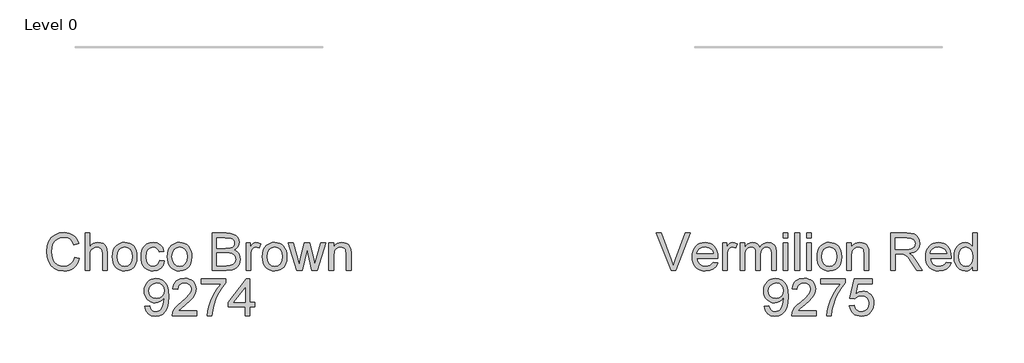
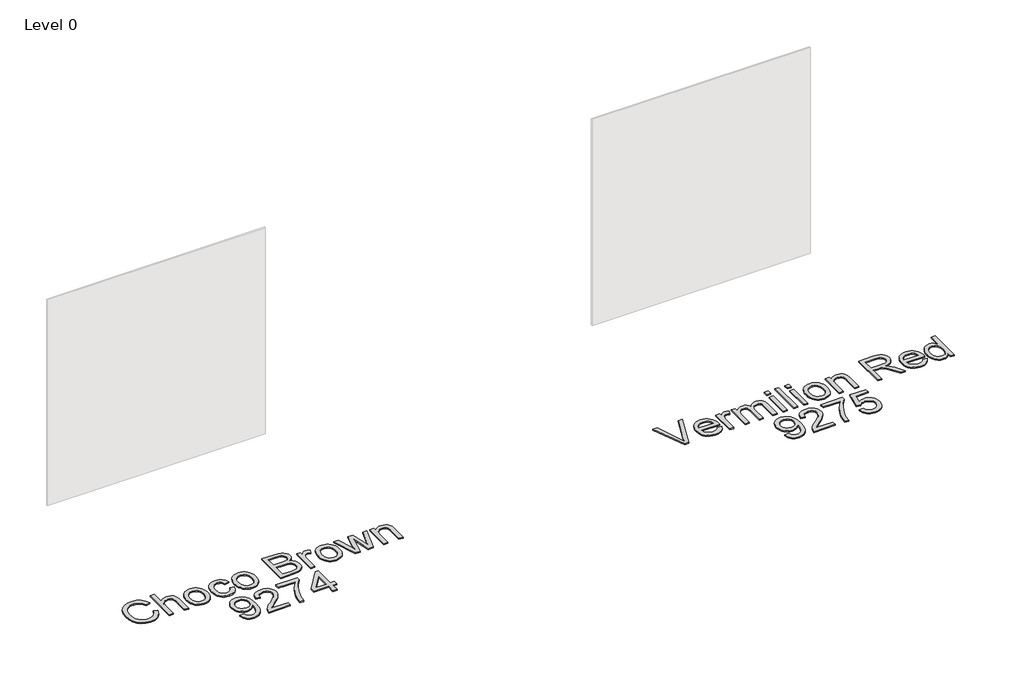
# One storey, part 5 of 6: 2 proxies.
"""IFC4 building model written with IfcOpenShell, lengths in millimetres."""

from ifc_helpers import new_model, si_unit, origin, origin_with_axes, place, context, project, spatial, polyline, outline, extrude, element, save

model = new_model("IFC4")

# Units and contexts
model_context = context("Model", 3, world=origin())
ifc_project = project(units=[si_unit("LENGTHUNIT", "METRE", prefix="MILLI")], contexts=[model_context])

# Site, building, storey
site = spatial("IfcSite", under=ifc_project)
building = spatial("IfcBuilding", under=site)
storey = spatial("IfcBuildingStorey", under=building, Name="Level 0", Elevation=0.0)

# Proxies
placement = place(None, origin())
element("IfcBuildingElementProxy", 1, Name="300mm Arial", ObjectType="300mm Arial", at=placement, inside=storey, context=model_context, shape_type="SweptSolid", body=[
    extrude(outline(polyline([(9359.9058769, -7002.860494), (9239.9763465, -6701.4915635), (9280.2962131, -6701.4915635), (9360.5680645, -6918.6155171), (9376.8284487, -6967.5438224), (9392.8681037, -6918.6155171), (9473.3606842, -6701.4915635), (9513.6805509, -6701.4915635), (9398.827792, -7002.860494), (9359.9058769, -7002.860494)])), origin_with_axes(), (0.0, 0.0, 1.0), 10.0),
    extrude(outline(polyline([(9698.9459236, -6936.9360404), (9735.881276, -6941.64493), (9722.5731448, -6969.4752029), (9701.3371566, -6990.2789297), (9672.651558, -7003.2467701), (9636.9945957, -7007.5693835), (9613.6202934, -7005.7046817), (9592.7935739, -7000.1105761), (9574.5144373, -6990.7870668), (9558.7828835, -6977.7341537), (9546.1323414, -6961.3151204), (9537.0962399, -6941.8932503), (9531.674579, -6919.4685435), (9529.8673587, -6894.0409998), (9531.6929731, -6867.7512327), (9537.1698163, -6844.5792656), (9546.2978883, -6824.5250983), (9559.0771891, -6807.5887309), (9574.7673562, -6794.133447), (9592.628027, -6784.5225298), (9612.6592017, -6778.7559796), (9634.8608801, -6776.8337961), (9656.3474879, -6778.751381), (9675.778555, -6784.5041357), (9693.1540815, -6794.0920602), (9708.4740673, -6807.5151545), (9720.9797559, -6824.4147337), (9729.9123906, -6844.4321128), (9735.2719714, -6867.5672917), (9737.0584983, -6893.8202706), (9736.8377691, -6903.9738137), (9567.538475, -6903.9738137), (9574.0591833, -6932.1719686), (9589.2067245, -6952.902119), (9611.068112, -6965.6492302), (9637.7303596, -6969.8982672), (9657.7799284, -6967.9300985), (9674.665712, -6962.0255925), (9688.3877104, -6951.8168672), (9698.9459236, -6936.9360404)]), holes=[polyline([(9567.538475, -6866.3026974), (9699.387382, -6866.3026974), (9694.2922164, -6846.4002814), (9684.3042202, -6832.1632482), (9662.3416651, -6818.9194964), (9634.7137273, -6814.5049125), (9609.3206726, -6818.0273826), (9588.3238077, -6828.5947929), (9573.7280895, -6845.0667092), (9567.538475, -6866.3026974)])]), origin_with_axes(), (0.0, 0.0, 1.0), 10.0),
    extrude(outline(polyline([(9774.7296146, -7002.860494), (9774.7296146, -6781.5426857), (9807.6918414, -6781.5426857), (9807.6918414, -6814.2841833), (9819.8687355, -6795.3014723), (9831.0891363, -6784.1178596), (9842.3463254, -6778.654812), (9854.633584, -6776.8337961), (9873.3955658, -6779.7400639), (9892.4518531, -6788.4588672), (9879.8702889, -6822.2304343), (9866.626537, -6816.4362929), (9853.3827852, -6814.5049125), (9842.1347932, -6816.3627165), (9832.0824177, -6821.9361288), (9823.9614227, -6830.8020848), (9818.5075721, -6842.5375205), (9813.9274412, -6863.5803706), (9812.400731, -6886.5362071), (9812.400731, -7002.860494), (9774.7296146, -7002.860494)])), origin_with_axes(), (0.0, 0.0, 1.0), 10.0),
    extrude(outline(polyline([(9915.9963008, -7002.860494), (9915.9963008, -6781.5426857), (9953.6674171, -6781.5426857), (9953.6674171, -6817.9630032), (9964.9981826, -6801.2335695), (9979.5663096, -6788.1277734), (9996.8751574, -6779.6572905), (10016.4280855, -6776.8337961), (10037.3789651, -6779.7124728), (10054.1727782, -6788.3485026), (10066.7175542, -6802.1716686), (10074.9213227, -6820.6117536), (10088.6525182, -6801.4588972), (10104.3150941, -6787.7782855), (10121.9090505, -6779.5699185), (10141.4343874, -6776.8337961), (10169.752104, -6781.3863358), (10190.6937866, -6795.0439549), (10203.6340358, -6818.1745354), (10207.9474522, -6851.1459592), (10207.9474522, -7002.860494), (10170.2763359, -7002.860494), (10170.2763359, -6867.332767), (10166.7814569, -6835.8788564), (10161.8702323, -6827.2060383), (10154.1263163, -6820.3910244), (10144.1659113, -6815.9764404), (10132.6052196, -6814.5049125), (10112.1969659, -6818.2757029), (10095.5595026, -6829.5880743), (10084.4954516, -6849.2145787), (10080.8074346, -6877.9277684), (10080.8074346, -7002.860494), (10043.1363183, -7002.860494), (10043.1363183, -6863.1389122), (10040.9566175, -6841.8385447), (10034.417515, -6826.6450183), (10022.9120056, -6817.5399389), (10005.833084, -6814.5049125), (9991.3201393, -6816.5282634), (9977.9476288, -6822.5983163), (9966.9111689, -6832.5679184), (9959.4063762, -6846.2899168), (9955.1021569, -6865.3278101), (9953.6674171, -6891.2450966), (9953.6674171, -7002.860494), (9915.9963008, -7002.860494)])), origin_with_axes(), (0.0, 0.0, 1.0), 10.0),
    extrude(outline(polyline([(10264.4541266, -6739.1626798), (10264.4541266, -6701.4915635), (10302.1252429, -6701.4915635), (10302.1252429, -6739.1626798), (10264.4541266, -6739.1626798)])), origin_with_axes(), (0.0, 0.0, 1.0), 10.0),
    extrude(outline(polyline([(10264.4541266, -7002.860494), (10264.4541266, -6781.5426857), (10302.1252429, -6781.5426857), (10302.1252429, -7002.860494), (10264.4541266, -7002.860494)])), origin_with_axes(), (0.0, 0.0, 1.0), 10.0),
    extrude(outline(polyline([(10358.6319174, -7002.860494), (10358.6319174, -6701.4915635), (10396.3030337, -6701.4915635), (10396.3030337, -7002.860494), (10358.6319174, -7002.860494)])), origin_with_axes(), (0.0, 0.0, 1.0), 10.0),
    extrude(outline(polyline([(10452.8097082, -7002.860494), (10452.8097082, -6781.5426857), (10490.4808245, -6781.5426857), (10490.4808245, -7002.860494), (10452.8097082, -7002.860494)])), origin_with_axes(), (0.0, 0.0, 1.0), 10.0),
    extrude(outline(polyline([(10452.8097082, -6739.1626798), (10452.8097082, -6701.4915635), (10490.4808245, -6701.4915635), (10490.4808245, -6739.1626798), (10452.8097082, -6739.1626798)])), origin_with_axes(), (0.0, 0.0, 1.0), 10.0),
    extrude(outline(polyline([(10537.5697198, -6892.2015898), (10539.6068664, -6863.5389839), (10545.718306, -6838.8403064), (10555.9040388, -6818.1055575), (10570.1640646, -6801.334737), (10584.5206595, -6790.6155754), (10600.3671764, -6782.9590314), (10617.7036154, -6778.3651049), (10636.5299765, -6776.8337961), (10657.31301, -6778.698498), (10676.1048822, -6784.2926036), (10692.905593, -6793.6161129), (10707.7151426, -6806.669026), (10719.8023654, -6823.0098843), (10728.436096, -6842.1972296), (10733.6163343, -6864.2310619), (10735.3430805, -6889.1113811), (10732.2896599, -6927.1687735), (10723.1293982, -6956.1394806), (10708.1290099, -6977.8353213), (10687.5552093, -6994.0681143), (10663.1186478, -7004.1940662), (10636.5299765, -7007.5693835), (10615.4434404, -7005.7115794), (10596.4768243, -7000.1381672), (10579.6301282, -6990.8491468), (10564.9033521, -6977.8445183), (10552.944888, -6961.3450108), (10544.4031279, -6941.5713536), (10539.2780719, -6918.5235466), (10537.5697198, -6892.2015898)]), holes=[polyline([(10575.2408362, -6892.1280134), (10579.6002378, -6926.2214773), (10592.6784427, -6950.5108861), (10612.3601295, -6965.0514219), (10636.5299765, -6969.8982672), (10660.589459, -6965.0238308), (10680.2343576, -6950.4005215), (10693.3125625, -6925.789216), (10697.6719641, -6890.950791), (10693.2849714, -6857.8506085), (10680.123993, -6833.8922936), (10660.4515033, -6819.3517577), (10636.5299765, -6814.5049125), (10612.3601295, -6819.3333636), (10592.6784427, -6833.8187172), (10579.6002378, -6858.0529436), (10575.2408362, -6892.1280134)])]), origin_with_axes(), (0.0, 0.0, 1.0), 10.0),
    extrude(outline(polyline([(10777.7230863, -7002.860494), (10777.7230863, -6781.5426857), (10815.3942026, -6781.5426857), (10815.3942026, -6812.4447733), (10828.4816046, -6796.8649708), (10844.1993628, -6785.7365404), (10862.5474773, -6779.0594822), (10883.5259481, -6776.8337961), (10902.0947918, -6778.6272209), (10919.100137, -6784.0074951), (10933.281988, -6792.303234), (10943.3803487, -6802.8430532), (10954.674326, -6830.5445674), (10956.6608888, -6866.964885), (10956.6608888, -7002.860494), (10918.9897724, -7002.860494), (10918.9897724, -6872.0416565), (10914.6487649, -6838.7115477), (10908.6430913, -6828.7879309), (10899.3080857, -6821.0900002), (10887.3427238, -6816.1511844), (10873.4459814, -6814.5049125), (10851.3822588, -6818.2021265), (10832.5742918, -6829.2937687), (10825.0580028, -6838.3482643), (10819.6892249, -6850.7228949), (10815.3942026, -6885.4325611), (10815.3942026, -7002.860494), (10777.7230863, -7002.860494)])), origin_with_axes(), (0.0, 0.0, 1.0), 10.0),
    extrude(outline(polyline([(11130.8898017, -7002.860494), (11130.8898017, -6701.4915635), (11260.752146, -6701.4915635), (11295.6549503, -6703.5241116), (11321.048005, -6709.6217556), (11339.6076516, -6720.8789447), (11354.0102317, -6738.3901276), (11363.2532669, -6760.1043624), (11366.3342786, -6783.9707069), (11361.2299159, -6813.6587839), (11345.9168278, -6838.2700893), (11334.3170487, -6848.2994722), (11319.9351619, -6856.3147012), (11282.8250657, -6866.3026974), (11304.2357978, -6882.4159288), (11334.7700034, -6921.1906911), (11385.0226839, -7002.860494), (11341.2447265, -7002.860494), (11302.0285058, -6940.3941312), (11273.7015922, -6899.0441949), (11253.7991763, -6879.509661), (11235.8833231, -6872.3359621), (11214.0311326, -6871.0115869), (11168.560918, -6871.0115869), (11168.560918, -7002.860494), (11130.8898017, -7002.860494)]), holes=[polyline([(11168.560918, -6833.3404706), (11252.8794713, -6833.3404706), (11277.0953036, -6832.0068984), (11295.8848765, -6828.0061817), (11310.0299392, -6821.0716061), (11320.312241, -6810.9364571), (11326.575432, -6798.6767896), (11328.6631623, -6785.3686584), (11324.6808397, -6766.9929528), (11312.7338719, -6752.1857025), (11292.1784654, -6742.4184355), (11262.3708267, -6739.1626798), (11168.560918, -6739.1626798), (11168.560918, -6833.3404706)])]), origin_with_axes(), (0.0, 0.0, 1.0), 10.0),
    extrude(outline(polyline([(11582.5017389, -6936.9360404), (11619.4370913, -6941.64493), (11606.1289601, -6969.4752029), (11584.8929719, -6990.2789297), (11556.2073733, -7003.2467701), (11520.550411, -7007.5693835), (11497.1761087, -7005.7046817), (11476.3493892, -7000.1105761), (11458.0702526, -6990.7870668), (11442.3386988, -6977.7341537), (11429.6881567, -6961.3151204), (11420.6520552, -6941.8932503), (11415.2303943, -6919.4685435), (11413.423174, -6894.0409998), (11415.2487884, -6867.7512327), (11420.7256316, -6844.5792656), (11429.8537036, -6824.5250983), (11442.6330044, -6807.5887309), (11458.3231715, -6794.133447), (11476.1838423, -6784.5225298), (11496.215017, -6778.7559796), (11518.4166954, -6776.8337961), (11539.9033032, -6778.751381), (11559.3343703, -6784.5041357), (11576.7098968, -6794.0920602), (11592.0298826, -6807.5151545), (11604.5355712, -6824.4147337), (11613.4682059, -6844.4321128), (11618.8277867, -6867.5672917), (11620.6143136, -6893.8202706), (11620.3935845, -6903.9738137), (11451.0942903, -6903.9738137), (11457.6149986, -6932.1719686), (11472.7625398, -6952.902119), (11494.6239273, -6965.6492302), (11521.2861749, -6969.8982672), (11541.3357437, -6967.9300985), (11558.2215273, -6962.0255925), (11571.9435257, -6951.8168672), (11582.5017389, -6936.9360404)]), holes=[polyline([(11451.0942903, -6866.3026974), (11582.9431973, -6866.3026974), (11577.8480317, -6846.4002814), (11567.8600355, -6832.1632482), (11545.8974804, -6818.9194964), (11518.2695426, -6814.5049125), (11492.8764879, -6818.0273826), (11471.879623, -6828.5947929), (11457.2839048, -6845.0667092), (11451.0942903, -6866.3026974)])]), origin_with_axes(), (0.0, 0.0, 1.0), 10.0),
    extrude(outline(polyline([(11794.8432266, -7002.860494), (11794.8432266, -6967.3230932), (11783.5722419, -6984.9308452), (11769.9192214, -6997.507811), (11753.8841649, -7005.0539904), (11735.4670725, -7007.5693835), (11711.1132845, -7003.9273518), (11688.8196356, -6993.0012565), (11669.9472892, -6975.5544529), (11655.8574088, -6952.350296), (11647.0834232, -6924.3268851), (11644.1587613, -6892.422319), (11646.853497, -6860.9132261), (11654.9377038, -6832.4575538), (11668.4021848, -6808.6739828), (11687.237743, -6791.181194), (11710.0188355, -6780.4206456), (11735.3199197, -6776.8337961), (11753.7508077, -6779.3997731), (11770.0479801, -6787.0977038), (11783.861949, -6798.8975188), (11794.8432266, -6813.7691485), (11794.8432266, -6701.4915635), (11832.5143429, -6701.4915635), (11832.5143429, -7002.860494), (11794.8432266, -7002.860494)]), holes=[polyline([(11681.8298776, -6892.2751662), (11686.0789147, -6926.350236), (11698.8260258, -6950.5844625), (11717.3488843, -6965.069816), (11738.9251633, -6969.8982672), (11760.4922453, -6965.2905452), (11778.5460542, -6951.4673793), (11790.7689335, -6928.1712519), (11794.8432266, -6895.1446458), (11790.6953571, -6859.037028), (11778.2517486, -6834.0026582), (11759.7380872, -6819.3793489), (11737.3800589, -6814.5049125), (11715.5830507, -6819.1862108), (11697.7223798, -6833.230106), (11685.8030032, -6857.3539678), (11681.8298776, -6892.2751662)])]), origin_with_axes(), (0.0, 0.0, 1.0), 10.0),
    extrude(outline(polyline([(10111.4152166, -7293.4427149), (10149.0863329, -7288.7338254), (10155.5242679, -7310.1169663), (10166.0089047, -7324.6758963), (10180.2827261, -7333.0360146), (10198.0882147, -7335.8227207), (10214.0634903, -7334.029296), (10228.5856321, -7328.6490218), (10240.6521615, -7320.2705094), (10249.2606002, -7309.4823699), (10261.5846471, -7276.7408723), (10267.0293006, -7233.0364913), (10266.8085714, -7225.6788514), (10253.7579576, -7241.6081418), (10236.679036, -7254.2264942), (10216.8042112, -7262.4486568), (10195.3658879, -7265.1893777), (10177.4707281, -7263.5155146), (10161.0149066, -7258.4939254), (10145.9984234, -7250.12461), (10132.4212786, -7238.4075684), (10121.1709873, -7223.9544045), (10113.135065, -7207.3767221), (10108.3135116, -7188.6745212), (10106.7063271, -7167.8478018), (10108.3916865, -7146.326705), (10113.4477647, -7127.0129003), (10121.8745616, -7109.9063875), (10133.6720773, -7095.0071667), (10148.0079788, -7082.9360387), (10164.0499331, -7074.3138045), (10181.7979401, -7069.1404639), (10201.2519999, -7067.4160171), (10229.3489872, -7071.3523544), (10254.925983, -7083.1613665), (10276.318321, -7102.254442), (10291.8613353, -7128.0429699), (10301.3250996, -7163.6907352), (10304.4796877, -7212.3615232), (10301.3342966, -7263.96617), (10291.8981235, -7303.8537754), (10276.2539416, -7333.8269609), (10254.4845246, -7355.6883485), (10227.5279714, -7369.0424649), (10196.3223811, -7373.4938371), (10164.1143124, -7368.2423216), (10138.4177551, -7352.4877751), (10120.4467196, -7327.2234791), (10111.4152166, -7293.4427149)]), holes=[polyline([(10266.8085714, -7166.964885), (10262.7434754, -7141.4338745), (10250.5481872, -7121.788976), (10231.6206586, -7109.262594), (10207.358841, -7105.0871334), (10182.1957125, -7109.5844908), (10162.0357792, -7123.0765629), (10148.7920273, -7143.7239399), (10144.3774434, -7169.6872117), (10148.552904, -7192.964945), (10161.079286, -7211.4418182), (10180.7425786, -7223.4991506), (10206.3287714, -7227.5182614), (10230.3974509, -7223.4991506), (10249.775635, -7211.4418182), (10262.5503373, -7192.2843633), (10266.8085714, -7166.964885)])]), origin_with_axes(), (0.0, 0.0, 1.0), 10.0),
    extrude(outline(polyline([(10530.5063855, -7331.1138312), (10530.5063855, -7368.7849475), (10332.7330249, -7368.7849475), (10336.7797269, -7342.8124787), (10346.0687473, -7322.5145896), (10359.661987, -7302.8237058), (10379.3252796, -7282.213117), (10406.8244588, -7259.156113), (10447.4754192, -7223.0484951), (10471.8659955, -7196.3954446), (10484.0612836, -7174.7639833), (10488.1263797, -7153.7211331), (10484.2912099, -7134.8579838), (10472.7857005, -7119.1770138), (10455.0997736, -7108.6096035), (10432.7233512, -7105.0871334), (10409.2248888, -7108.52683), (10390.9687448, -7118.84592), (10379.1873239, -7135.2350629), (10375.1130308, -7156.8849183), (10337.4419145, -7152.1760288), (10346.574585, -7115.7373171), (10355.1209436, -7101.2013798), (10366.3206511, -7089.1210548), (10379.9161901, -7079.6251008), (10395.6500432, -7072.8422765), (10433.5326916, -7067.4160171), (10453.7225154, -7068.9243332), (10471.6912516, -7073.4492818), (10487.4389002, -7080.9908627), (10500.9654613, -7091.549076), (10511.8294765, -7104.3421723), (10519.5894873, -7118.5884026), (10524.2454938, -7134.2877667), (10525.797496, -7151.4402648), (10524.1236329, -7169.4572855), (10519.1020437, -7187.1616065), (10510.1901024, -7205.1694302), (10496.845183, -7224.0969588), (10475.5724066, -7246.6941104), (10442.8768943, -7275.7108027), (10399.5403953, -7311.9471793), (10382.5442471, -7331.1138312), (10530.5063855, -7331.1138312)])), origin_with_axes(), (0.0, 0.0, 1.0), 10.0),
    extrude(outline(polyline([(10568.1775018, -7109.7960229), (10568.1775018, -7072.1249066), (10765.9508625, -7072.1249066), (10765.9508625, -7102.5855358), (10737.7619046, -7138.2608923), (10709.8488582, -7183.6299393), (10685.2283557, -7234.5540045), (10666.9170294, -7286.8944154), (10657.9407087, -7326.0554538), (10652.9375135, -7368.7849475), (10615.2663972, -7368.7849475), (10619.3406903, -7329.9550029), (10630.2391944, -7283.8042066), (10647.667604, -7234.8850983), (10671.3316133, -7187.7502177), (10698.9595511, -7145.1402856), (10728.2797461, -7109.7960229), (10568.1775018, -7109.7960229)])), origin_with_axes(), (0.0, 0.0, 1.0), 10.0),
    extrude(outline(polyline([(10798.9130892, -7288.7338254), (10836.5842055, -7284.0249358), (10843.500387, -7306.6404815), (10855.5669165, -7322.8364863), (10872.7286116, -7332.5761621), (10894.93029, -7335.8227207), (10921.9328284, -7331.3069693), (10942.1663381, -7317.7597148), (10954.8030847, -7296.7444558), (10959.0153335, -7269.8246908), (10955.0697991, -7244.4776213), (10943.2331959, -7225.0902402), (10923.4135534, -7212.7845875), (10895.5189012, -7208.6827032), (10877.244363, -7210.3197781), (10862.4463098, -7215.2310027), (10841.2930951, -7232.2271509), (10803.6219788, -7227.5182614), (10836.5842055, -7072.1249066), (10982.5597812, -7072.1249066), (10982.5597812, -7109.7960229), (10867.0448347, -7109.7960229), (10850.9316033, -7192.790201), (10877.8421713, -7176.4562404), (10906.0403262, -7171.0115869), (10924.3861415, -7172.6992456), (10941.2374361, -7177.7622215), (10956.5942101, -7186.2005148), (10970.4564636, -7198.0141254), (10981.9320826, -7212.4810848), (10990.1289533, -7228.8794248), (10995.0470757, -7247.2091452), (10996.6864498, -7267.470246), (10990.7819438, -7305.1413624), (10983.4013113, -7321.9351754), (10973.0684257, -7337.3678251), (10957.4150468, -7353.1729553), (10939.1497058, -7364.4623341), (10918.2724026, -7371.2359613), (10894.7831372, -7373.4938371), (10857.7834055, -7367.6904986), (10842.1047347, -7360.4363255), (10828.3068606, -7350.2804832), (10816.8266431, -7337.7288093), (10808.1009421, -7323.2871418), (10798.9130892, -7288.7338254)])), origin_with_axes(), (0.0, 0.0, 1.0), 10.0),
])
element("IfcBuildingElementProxy", 2, Name="300mm Arial", ObjectType="300mm Arial", at=placement, inside=storey, context=model_context, shape_type="SweptSolid", body=[
    extrude(outline(polyline([(4543.9940273, -6895.733257), (4581.6651436, -6905.4453417), (4574.2109347, -6928.872527), (4564.2827193, -6949.3428607), (4551.8804975, -6966.856343), (4537.0042694, -6981.4129737), (4519.9897271, -6992.856403), (4501.172563, -7001.0302811), (4480.5527772, -7005.9346079), (4458.1303696, -7007.5693835), (4414.4351856, -7002.6213707), (4379.7347164, -6987.7773322), (4353.1368482, -6963.5523028), (4333.749467, -6930.4613173), (4321.9128638, -6891.5577963), (4317.9673294, -6849.8951604), (4322.4278986, -6805.9516561), (4335.8096062, -6768.0046283), (4357.4134764, -6737.2588905), (4386.5405333, -6714.9192564), (4421.0846527, -6701.3168196), (4458.93971, -6696.782674), (4500.243661, -6702.6503918), (4518.2123972, -6709.9850391), (4534.3923072, -6720.2535453), (4548.5166766, -6733.1845974), (4560.3187908, -6748.5068825), (4576.956254, -6786.3251516), (4539.2851377, -6795.3014723), (4526.2253269, -6767.8298843), (4508.3830501, -6748.9851291), (4485.5375782, -6738.086625), (4457.468182, -6734.4537903), (4425.1129605, -6738.4820981), (4398.5334864, -6750.5670217), (4378.364356, -6769.439368), (4365.2401658, -6793.8299443), (4358.0388758, -6821.4026999), (4355.6384457, -6849.821584), (4358.4803342, -6884.6232207), (4367.0059994, -6914.7159679), (4381.5373382, -6938.9501944), (4402.3962473, -6956.1762688), (4427.403026, -6966.4677676), (4454.3779732, -6969.8982672), (4485.8226868, -6965.2261659), (4512.0250819, -6951.2098619), (4531.8079362, -6927.996508), (4543.9940273, -6895.733257)])), origin_with_axes(), (0.0, 0.0, 1.0), 10.0),
    extrude(outline(polyline([(4628.754039, -7002.860494), (4628.754039, -6701.4915635), (4666.4251553, -6701.4915635), (4666.4251553, -6812.2976205), (4680.2621168, -6796.7821973), (4695.8005326, -6785.6997522), (4713.0404026, -6779.0502852), (4731.9817268, -6776.8337961), (4754.7352282, -6779.2526203), (4774.2881563, -6786.5090926), (4789.6840178, -6798.0329961), (4799.9663195, -6813.2541137), (4805.7604609, -6834.1682051), (4807.6918414, -6862.7710302), (4807.6918414, -7002.860494), (4770.0207251, -7002.860494), (4770.0207251, -6866.6705794), (4767.0224868, -6843.0893435), (4758.0277721, -6826.9393239), (4743.5332215, -6817.6135153), (4724.0354757, -6814.5049125), (4708.1153824, -6816.6018398), (4693.1701763, -6822.8926219), (4680.7909472, -6832.7702535), (4672.5687846, -6845.6277292), (4667.9610626, -6862.7158479), (4666.4251553, -6885.2854083), (4666.4251553, -7002.860494), (4628.754039, -7002.860494)])), origin_with_axes(), (0.0, 0.0, 1.0), 10.0),
    extrude(outline(polyline([(4850.0718473, -6892.2015898), (4852.1089938, -6863.5389839), (4858.2204335, -6838.8403064), (4868.4061662, -6818.1055575), (4882.666192, -6801.334737), (4897.0227869, -6790.6155754), (4912.8693038, -6782.9590314), (4930.2057429, -6778.3651049), (4949.032104, -6776.8337961), (4969.8151374, -6778.698498), (4988.6070096, -6784.2926036), (5005.4077205, -6793.6161129), (5020.21727, -6806.669026), (5032.3044928, -6823.0098843), (5040.9382234, -6842.1972296), (5046.1184618, -6864.2310619), (5047.8452079, -6889.1113811), (5044.7917873, -6927.1687735), (5035.6315256, -6956.1394806), (5020.6311373, -6977.8353213), (5000.0573367, -6994.0681143), (4975.6207752, -7004.1940662), (4949.032104, -7007.5693835), (4927.9455679, -7005.7115794), (4908.9789517, -7000.1381672), (4892.1322556, -6990.8491468), (4877.4054795, -6977.8445183), (4865.4470154, -6961.3450108), (4856.9052553, -6941.5713536), (4851.7801993, -6918.5235466), (4850.0718473, -6892.2015898)]), holes=[polyline([(4887.7429636, -6892.1280134), (4892.1023652, -6926.2214773), (4905.1805701, -6950.5108861), (4924.8622569, -6965.0514219), (4949.032104, -6969.8982672), (4973.0915864, -6965.0238308), (4992.736485, -6950.4005215), (5005.8146899, -6925.789216), (5010.1740916, -6890.950791), (5005.7870988, -6857.8506085), (4992.6261204, -6833.8922936), (4972.9536307, -6819.3517577), (4949.032104, -6814.5049125), (4924.8622569, -6819.3333636), (4905.1805701, -6833.8187172), (4892.1023652, -6858.0529436), (4887.7429636, -6892.1280134)])]), origin_with_axes(), (0.0, 0.0, 1.0), 10.0),
    extrude(outline(polyline([(5231.4918999, -6922.8093718), (5269.1630162, -6927.5182614), (5258.6599852, -6961.0231141), (5238.9231162, -6986.3425924), (5211.8102131, -7002.2626857), (5179.1790801, -7007.5693835), (5158.0511573, -7005.7184772), (5139.1075338, -7000.1657584), (5122.3482097, -6990.9112269), (5107.7731849, -6977.9548829), (5095.9756691, -6961.5404481), (5087.5488722, -6941.9116444), (5082.492794, -6919.0684718), (5080.8074346, -6893.0109302), (5083.6861112, -6859.4876834), (5092.3221411, -6830.4342028), (5106.8534799, -6806.9725286), (5127.4180834, -6790.2247008), (5152.0201919, -6780.1815223), (5178.6640454, -6776.8337961), (5210.495035, -6781.4323211), (5235.943272, -6795.2278959), (5254.199416, -6817.4847566), (5264.4541266, -6847.4671392), (5226.7830103, -6852.1760288), (5219.9496023, -6835.7409006), (5209.3086156, -6823.9594797), (5195.4486614, -6816.8685543), (5178.9583509, -6814.5049125), (5154.6137599, -6819.1586197), (5135.2907581, -6833.1197414), (5122.6816027, -6857.1424357), (5118.4785509, -6891.9808606), (5122.5896322, -6927.2883351), (5134.9228761, -6951.3938029), (5153.89639, -6965.2721511), (5177.9282814, -6969.8982672), (5197.4352242, -6967.0103936), (5213.4288939, -6958.3467726), (5225.063162, -6943.6866751), (5231.4918999, -6922.8093718)])), origin_with_axes(), (0.0, 0.0, 1.0), 10.0),
    extrude(outline(polyline([(5292.7074639, -6892.2015898), (5294.7446104, -6863.5389839), (5300.8560501, -6838.8403064), (5311.0417828, -6818.1055575), (5325.3018086, -6801.334737), (5339.6584035, -6790.6155754), (5355.5049204, -6782.9590314), (5372.8413595, -6778.3651049), (5391.6677206, -6776.8337961), (5412.450754, -6778.698498), (5431.2426262, -6784.2926036), (5448.0433371, -6793.6161129), (5462.8528866, -6806.669026), (5474.9401094, -6823.0098843), (5483.57384, -6842.1972296), (5488.7540783, -6864.2310619), (5490.4808245, -6889.1113811), (5487.4274039, -6927.1687735), (5478.2671422, -6956.1394806), (5463.2667539, -6977.8353213), (5442.6929533, -6994.0681143), (5418.2563918, -7004.1940662), (5391.6677206, -7007.5693835), (5370.5811844, -7005.7115794), (5351.6145683, -7000.1381672), (5334.7678722, -6990.8491468), (5320.0410961, -6977.8445183), (5308.082632, -6961.3450108), (5299.5408719, -6941.5713536), (5294.4158159, -6918.5235466), (5292.7074639, -6892.2015898)]), holes=[polyline([(5330.3785802, -6892.1280134), (5334.7379818, -6926.2214773), (5347.8161867, -6950.5108861), (5367.4978735, -6965.0514219), (5391.6677206, -6969.8982672), (5415.727203, -6965.0238308), (5435.3721016, -6950.4005215), (5448.4503065, -6925.789216), (5452.8097082, -6890.950791), (5448.4227154, -6857.8506085), (5435.261737, -6833.8922936), (5415.5892473, -6819.3517577), (5391.6677206, -6814.5049125), (5367.4978735, -6819.3333636), (5347.8161867, -6833.8187172), (5334.7379818, -6858.0529436), (5330.3785802, -6892.1280134)])]), origin_with_axes(), (0.0, 0.0, 1.0), 10.0),
    extrude(outline(polyline([(5655.2919583, -7002.860494), (5655.2919583, -6701.4915635), (5770.29187, -6701.4915635), (5801.9205245, -6703.7080526), (5826.6146035, -6710.3575196), (5845.5421321, -6721.6055116), (5859.8711358, -6737.6175755), (5868.8934418, -6756.4531336), (5871.9008771, -6776.1716086), (5869.3716883, -6794.317388), (5861.7841222, -6811.3779155), (5849.0829963, -6826.3047274), (5831.2131284, -6838.0493601), (5852.5594812, -6849.1961846), (5868.3324217, -6866.1555446), (5878.0720975, -6887.8054), (5881.3186561, -6913.0237108), (5879.1021671, -6934.0389697), (5872.4527001, -6953.5275184), (5862.5290832, -6970.1006023), (5850.4901449, -6982.3694669), (5835.747274, -6991.253817), (5817.7118592, -6997.6733578), (5769.4089532, -7002.860494), (5655.2919583, -7002.860494)]), holes=[polyline([(5692.9630746, -6823.9226915), (5761.7570077, -6823.9226915), (5801.9297216, -6820.68533), (5815.9920108, -6815.1027207), (5826.0995687, -6806.7426024), (5832.1972127, -6795.7337336), (5834.2297608, -6782.2048733), (5832.3351685, -6769.071486), (5826.6513917, -6757.630356), (5817.4359477, -6748.7000206), (5804.9463539, -6743.0990172), (5756.5330834, -6739.1626798), (5692.9630746, -6739.1626798), (5692.9630746, -6823.9226915)]), polyline([(5692.9630746, -6965.1893777), (5770.2182936, -6965.1893777), (5798.1773252, -6963.7178497), (5821.8321375, -6955.5140812), (5837.5039105, -6938.7754504), (5842.1116325, -6926.9480443), (5843.6475398, -6913.3915928), (5841.8449181, -6897.6462434), (5836.4370527, -6884.1081859), (5826.9916825, -6873.5223815), (5813.076546, -6866.6337912), (5793.3672681, -6862.8538037), (5766.5394736, -6861.5938078), (5692.9630746, -6861.5938078), (5692.9630746, -6965.1893777)])]), origin_with_axes(), (0.0, 0.0, 1.0), 10.0),
    extrude(outline(polyline([(5928.4075515, -7002.860494), (5928.4075515, -6781.5426857), (5961.3697783, -6781.5426857), (5961.3697783, -6814.2841833), (5973.5466723, -6795.3014723), (5984.7670732, -6784.1178596), (5996.0242622, -6778.654812), (6008.3115209, -6776.8337961), (6027.0735026, -6779.7400639), (6046.12979, -6788.4588672), (6033.5482257, -6822.2304343), (6020.3044739, -6816.4362929), (6007.0607221, -6814.5049125), (5995.8127301, -6816.3627165), (5985.7603546, -6821.9361288), (5977.6393595, -6830.8020848), (5972.1855089, -6842.5375205), (5967.6053781, -6863.5803706), (5966.0786678, -6886.5362071), (5966.0786678, -7002.860494), (5928.4075515, -7002.860494)])), origin_with_axes(), (0.0, 0.0, 1.0), 10.0),
    extrude(outline(polyline([(6060.2564586, -6892.2015898), (6062.2936051, -6863.5389839), (6068.4050448, -6838.8403064), (6078.5907775, -6818.1055575), (6092.8508034, -6801.334737), (6107.2073982, -6790.6155754), (6123.0539152, -6782.9590314), (6140.3903542, -6778.3651049), (6159.2167153, -6776.8337961), (6179.9997488, -6778.698498), (6198.7916209, -6784.2926036), (6215.5923318, -6793.6161129), (6230.4018814, -6806.669026), (6242.4891042, -6823.0098843), (6251.1228347, -6842.1972296), (6256.3030731, -6864.2310619), (6258.0298192, -6889.1113811), (6254.9763986, -6927.1687735), (6245.816137, -6956.1394806), (6230.8157486, -6977.8353213), (6210.241948, -6994.0681143), (6185.8053865, -7004.1940662), (6159.2167153, -7007.5693835), (6138.1301792, -7005.7115794), (6119.1635631, -7000.1381672), (6102.316867, -6990.8491468), (6087.5900908, -6977.8445183), (6075.6316267, -6961.3450108), (6067.0898667, -6941.5713536), (6061.9648106, -6918.5235466), (6060.2564586, -6892.2015898)]), holes=[polyline([(6097.9275749, -6892.1280134), (6102.2869765, -6926.2214773), (6115.3651815, -6950.5108861), (6135.0468682, -6965.0514219), (6159.2167153, -6969.8982672), (6183.2761978, -6965.0238308), (6202.9210963, -6950.4005215), (6215.9993013, -6925.789216), (6220.3587029, -6890.950791), (6215.9717101, -6857.8506085), (6202.8107317, -6833.8922936), (6183.138242, -6819.3517577), (6159.2167153, -6814.5049125), (6135.0468682, -6819.3333636), (6115.3651815, -6833.8187172), (6102.2869765, -6858.0529436), (6097.9275749, -6892.1280134)])]), origin_with_axes(), (0.0, 0.0, 1.0), 10.0),
    extrude(outline(polyline([(6337.1244482, -7002.860494), (6269.802043, -6781.5426857), (6308.9446873, -6781.5426857), (6347.1308384, -6910.669266), (6358.5351803, -6956.8016682), (6367.879383, -6912.3615232), (6398.2664358, -6781.5426857), (6443.1480392, -6781.5426857), (6473.3879392, -6911.9936412), (6481.7020723, -6952.2399314), (6493.6214489, -6909.7863492), (6531.8811764, -6781.5426857), (6571.1709735, -6781.5426857), (6503.3335336, -7002.860494), (6457.7897426, -7002.860494), (6428.8742178, -6873.0717261), (6420.4865083, -6832.6047066), (6383.183274, -7002.860494), (6337.1244482, -7002.860494)])), origin_with_axes(), (0.0, 0.0, 1.0), 10.0),
    extrude(outline(polyline([(6597.069866, -7002.860494), (6597.069866, -6781.5426857), (6634.7409823, -6781.5426857), (6634.7409823, -6812.4447733), (6647.8283842, -6796.8649708), (6663.5461425, -6785.7365404), (6681.894257, -6779.0594822), (6702.8727278, -6776.8337961), (6721.4415715, -6778.6272209), (6738.4469167, -6784.0074951), (6752.6287676, -6792.303234), (6762.7271284, -6802.8430532), (6774.0211056, -6830.5445674), (6776.0076684, -6866.964885), (6776.0076684, -7002.860494), (6738.3365521, -7002.860494), (6738.3365521, -6872.0416565), (6733.9955446, -6838.7115477), (6727.989871, -6828.7879309), (6718.6548654, -6821.0900002), (6706.6895035, -6816.1511844), (6692.7927611, -6814.5049125), (6670.7290384, -6818.2021265), (6651.9210714, -6829.2937687), (6644.4047824, -6838.3482643), (6639.0360046, -6850.7228949), (6634.7409823, -6885.4325611), (6634.7409823, -7002.860494), (6597.069866, -7002.860494)])), origin_with_axes(), (0.0, 0.0, 1.0), 10.0),
    extrude(outline(polyline([(5111.4152166, -7293.4427149), (5149.0863329, -7288.7338254), (5155.5242679, -7310.1169663), (5166.0089047, -7324.6758963), (5180.2827261, -7333.0360146), (5198.0882147, -7335.8227207), (5214.0634903, -7334.029296), (5228.5856321, -7328.6490218), (5240.6521615, -7320.2705094), (5249.2606002, -7309.4823699), (5261.5846471, -7276.7408723), (5267.0293006, -7233.0364913), (5266.8085714, -7225.6788514), (5253.7579576, -7241.6081418), (5236.679036, -7254.2264942), (5216.8042112, -7262.4486568), (5195.3658879, -7265.1893777), (5177.4707281, -7263.5155146), (5161.0149066, -7258.4939254), (5145.9984234, -7250.12461), (5132.4212786, -7238.4075684), (5121.1709873, -7223.9544045), (5113.135065, -7207.3767221), (5108.3135116, -7188.6745212), (5106.7063271, -7167.8478018), (5108.3916865, -7146.326705), (5113.4477647, -7127.0129003), (5121.8745616, -7109.9063875), (5133.6720773, -7095.0071667), (5148.0079788, -7082.9360387), (5164.0499331, -7074.3138045), (5181.7979401, -7069.1404639), (5201.2519999, -7067.4160171), (5229.3489872, -7071.3523544), (5254.925983, -7083.1613665), (5276.318321, -7102.254442), (5291.8613353, -7128.0429699), (5301.3250996, -7163.6907352), (5304.4796877, -7212.3615232), (5301.3342966, -7263.96617), (5291.8981235, -7303.8537754), (5276.2539416, -7333.8269609), (5254.4845246, -7355.6883485), (5227.5279714, -7369.0424649), (5196.3223811, -7373.4938371), (5164.1143124, -7368.2423216), (5138.4177551, -7352.4877751), (5120.4467196, -7327.2234791), (5111.4152166, -7293.4427149)]), holes=[polyline([(5266.8085714, -7166.964885), (5262.7434754, -7141.4338745), (5250.5481872, -7121.788976), (5231.6206586, -7109.262594), (5207.358841, -7105.0871334), (5182.1957125, -7109.5844908), (5162.0357792, -7123.0765629), (5148.7920273, -7143.7239399), (5144.3774434, -7169.6872117), (5148.552904, -7192.964945), (5161.079286, -7211.4418182), (5180.7425786, -7223.4991506), (5206.3287714, -7227.5182614), (5230.3974509, -7223.4991506), (5249.775635, -7211.4418182), (5262.5503373, -7192.2843633), (5266.8085714, -7166.964885)])]), origin_with_axes(), (0.0, 0.0, 1.0), 10.0),
    extrude(outline(polyline([(5530.5063855, -7331.1138312), (5530.5063855, -7368.7849475), (5332.7330249, -7368.7849475), (5336.7797269, -7342.8124787), (5346.0687473, -7322.5145896), (5359.661987, -7302.8237058), (5379.3252796, -7282.213117), (5406.8244588, -7259.156113), (5447.4754192, -7223.0484951), (5471.8659955, -7196.3954446), (5484.0612836, -7174.7639833), (5488.1263797, -7153.7211331), (5484.2912099, -7134.8579838), (5472.7857005, -7119.1770138), (5455.0997736, -7108.6096035), (5432.7233512, -7105.0871334), (5409.2248888, -7108.52683), (5390.9687448, -7118.84592), (5379.1873239, -7135.2350629), (5375.1130308, -7156.8849183), (5337.4419145, -7152.1760288), (5346.574585, -7115.7373171), (5355.1209436, -7101.2013798), (5366.3206511, -7089.1210548), (5379.9161901, -7079.6251008), (5395.6500432, -7072.8422765), (5433.5326916, -7067.4160171), (5453.7225154, -7068.9243332), (5471.6912516, -7073.4492818), (5487.4389002, -7080.9908627), (5500.9654613, -7091.549076), (5511.8294765, -7104.3421723), (5519.5894873, -7118.5884026), (5524.2454938, -7134.2877667), (5525.797496, -7151.4402648), (5524.1236329, -7169.4572855), (5519.1020437, -7187.1616065), (5510.1901024, -7205.1694302), (5496.845183, -7224.0969588), (5475.5724066, -7246.6941104), (5442.8768943, -7275.7108027), (5399.5403953, -7311.9471793), (5382.5442471, -7331.1138312), (5530.5063855, -7331.1138312)])), origin_with_axes(), (0.0, 0.0, 1.0), 10.0),
    extrude(outline(polyline([(5568.1775018, -7109.7960229), (5568.1775018, -7072.1249066), (5765.9508625, -7072.1249066), (5765.9508625, -7102.5855358), (5737.7619046, -7138.2608923), (5709.8488582, -7183.6299393), (5685.2283557, -7234.5540045), (5666.9170294, -7286.8944154), (5657.9407087, -7326.0554538), (5652.9375135, -7368.7849475), (5615.2663972, -7368.7849475), (5619.3406903, -7329.9550029), (5630.2391944, -7283.8042066), (5647.667604, -7234.8850983), (5671.3316133, -7187.7502177), (5698.9595511, -7145.1402856), (5728.2797461, -7109.7960229), (5568.1775018, -7109.7960229)])), origin_with_axes(), (0.0, 0.0, 1.0), 10.0),
    extrude(outline(polyline([(5921.3442172, -7368.7849475), (5921.3442172, -7298.1516044), (5784.7864206, -7298.1516044), (5784.7864206, -7260.4804881), (5930.7619963, -7072.1249066), (5959.0153335, -7072.1249066), (5959.0153335, -7260.4804881), (5996.6864498, -7260.4804881), (5996.6864498, -7298.1516044), (5959.0153335, -7298.1516044), (5959.0153335, -7368.7849475), (5921.3442172, -7368.7849475)]), holes=[polyline([(5921.3442172, -7260.4804881), (5921.3442172, -7144.0826249), (5831.139552, -7260.4804881), (5921.3442172, -7260.4804881)])]), origin_with_axes(), (0.0, 0.0, 1.0), 10.0),
])

save(model, "model.ifc")
